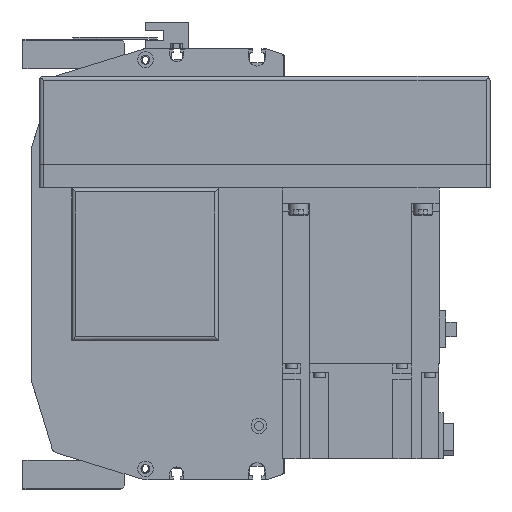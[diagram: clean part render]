
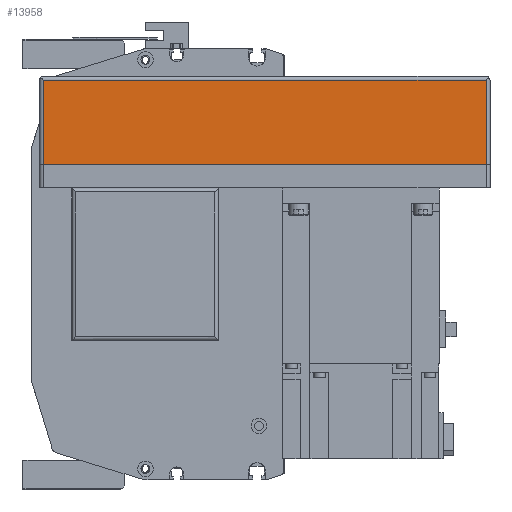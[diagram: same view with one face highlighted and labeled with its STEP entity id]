
A CAD part, left-side view. The second image highlights one B-rep face of the part: STEP entity #13958.
In plain terms, the highlighted planar face has unit normal (-1, 0, 0) as drawn and (0, -1, 0) by its records, which use the part's own axes.
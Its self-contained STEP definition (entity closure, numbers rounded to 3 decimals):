
#2267=ORIENTED_EDGE('',*,*,#5634,.F.);
#2268=ORIENTED_EDGE('',*,*,#5637,.T.);
#2269=ORIENTED_EDGE('',*,*,#5638,.T.);
#2270=ORIENTED_EDGE('',*,*,#5639,.F.);
#5634=EDGE_CURVE('',#7445,#7446,#8893,.T.);
#5637=EDGE_CURVE('',#7445,#7448,#8895,.T.);
#5638=EDGE_CURVE('',#7448,#7449,#8896,.T.);
#5639=EDGE_CURVE('',#7446,#7449,#8897,.T.);
#7445=VERTEX_POINT('',#21711);
#7446=VERTEX_POINT('',#21713);
#7448=VERTEX_POINT('',#21719);
#7449=VERTEX_POINT('',#21721);
#8893=LINE('',#21712,#10232);
#8895=LINE('',#21718,#10234);
#8896=LINE('',#21720,#10235);
#8897=LINE('',#21722,#10236);
#10232=VECTOR('',#17356,1000.);
#10234=VECTOR('',#17362,1000.);
#10235=VECTOR('',#17363,1000.);
#10236=VECTOR('',#17364,1000.);
#11396=EDGE_LOOP('',(#2267,#2268,#2269,#2270));
#12447=FACE_BOUND('',#11396,.T.);
#13354=PLANE('',#14962);
#13958=ADVANCED_FACE('',(#12447),#13354,.T.);
#14962=AXIS2_PLACEMENT_3D('',#21717,#17360,#17361);
#17356=DIRECTION('',(0.,0.,1.));
#17360=DIRECTION('',(0.,-1.,0.));
#17361=DIRECTION('',(0.,0.,-1.));
#17362=DIRECTION('',(1.,0.,0.));
#17363=DIRECTION('',(0.,0.,1.));
#17364=DIRECTION('',(1.,0.,0.));
#21711=CARTESIAN_POINT('',(-228.,-54.,-55.));
#21712=CARTESIAN_POINT('',(-228.,-54.,-57.));
#21713=CARTESIAN_POINT('',(-228.,-54.,-12.));
#21717=CARTESIAN_POINT('',(-228.,-54.,-57.));
#21718=CARTESIAN_POINT('',(-230.,-54.,-55.));
#21719=CARTESIAN_POINT('',(-2.,-54.,-55.));
#21720=CARTESIAN_POINT('',(-2.,-54.,-57.));
#21721=CARTESIAN_POINT('',(-2.,-54.,-12.));
#21722=CARTESIAN_POINT('',(-228.,-54.,-12.));
